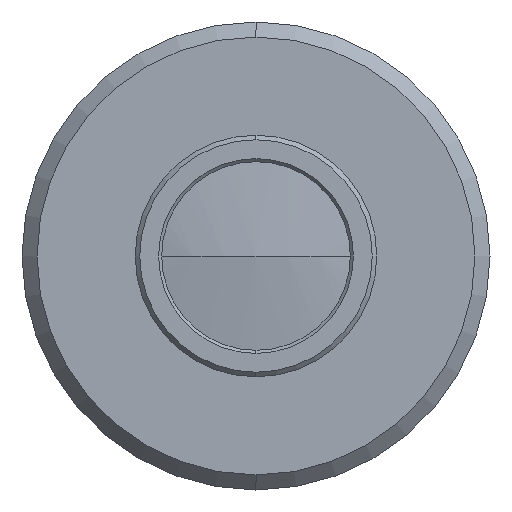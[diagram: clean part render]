
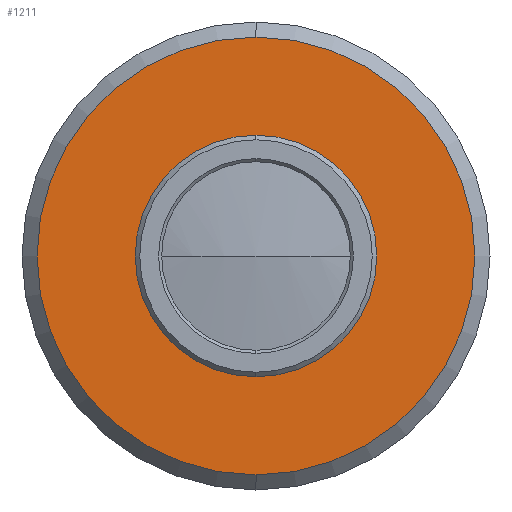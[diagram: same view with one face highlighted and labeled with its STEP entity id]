
A CAD part, left-side view. The second image highlights one B-rep face of the part: STEP entity #1211.
In plain terms, the highlighted planar face has unit normal (-1, 0, 0).
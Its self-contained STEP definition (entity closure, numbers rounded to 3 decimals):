
#11 = CIRCLE ( 'NONE', #668, 14.5 ) ;
#12 = VERTEX_POINT ( 'NONE', #212 ) ;
#77 = VERTEX_POINT ( 'NONE', #375 ) ;
#113 = CARTESIAN_POINT ( 'NONE',  ( -24.026, 0., 14.5 ) ) ;
#123 = AXIS2_PLACEMENT_3D ( 'NONE', #415, #418, #422 ) ;
#129 = CARTESIAN_POINT ( 'NONE',  ( -24.026, 0., 8. ) ) ;
#140 = ORIENTED_EDGE ( 'NONE', *, *, #414, .F. ) ;
#176 = EDGE_CURVE ( 'NONE', #77, #416, #425, .T. ) ;
#212 = CARTESIAN_POINT ( 'NONE',  ( -24.026, 0., -14.5 ) ) ;
#330 = DIRECTION ( 'NONE',  ( -1., 0., 0. ) ) ;
#375 = CARTESIAN_POINT ( 'NONE',  ( -24.026, 0., -8. ) ) ;
#414 = EDGE_CURVE ( 'NONE', #416, #77, #710, .T. ) ;
#415 = CARTESIAN_POINT ( 'NONE',  ( -24.026, 0., 0. ) ) ;
#416 = VERTEX_POINT ( 'NONE', #129 ) ;
#418 = DIRECTION ( 'NONE',  ( -1., 0., 0. ) ) ;
#422 = DIRECTION ( 'NONE',  ( 0., 0., 1. ) ) ;
#425 = CIRCLE ( 'NONE', #1213, 8. ) ;
#464 = ORIENTED_EDGE ( 'NONE', *, *, #1347, .T. ) ;
#664 = CIRCLE ( 'NONE', #123, 14.5 ) ;
#668 = AXIS2_PLACEMENT_3D ( 'NONE', #676, #678, #1104 ) ;
#676 = CARTESIAN_POINT ( 'NONE',  ( -24.026, 0., 0. ) ) ;
#678 = DIRECTION ( 'NONE',  ( -1., 0., 0. ) ) ;
#689 = CARTESIAN_POINT ( 'NONE',  ( -24.026, 0., 0. ) ) ;
#693 = DIRECTION ( 'NONE',  ( -1., 0., 0. ) ) ;
#708 = DIRECTION ( 'NONE',  ( 0., 0., 1. ) ) ;
#710 = CIRCLE ( 'NONE', #1319, 8. ) ;
#762 = CARTESIAN_POINT ( 'NONE',  ( -24.026, -46.261, 0. ) ) ;
#820 = PLANE ( 'NONE',  #1009 ) ;
#849 = FACE_BOUND ( 'NONE', #959, .T. ) ;
#879 = DIRECTION ( 'NONE',  ( 0., 0., 1. ) ) ;
#919 = DIRECTION ( 'NONE',  ( -1., 0., 0. ) ) ;
#959 = EDGE_LOOP ( 'NONE', ( #140, #1320 ) ) ;
#1008 = CARTESIAN_POINT ( 'NONE',  ( -24.026, 0., 0. ) ) ;
#1009 = AXIS2_PLACEMENT_3D ( 'NONE', #762, #330, #1355 ) ;
#1070 = EDGE_LOOP ( 'NONE', ( #464, #1279 ) ) ;
#1104 = DIRECTION ( 'NONE',  ( 0., 0., 1. ) ) ;
#1128 = FACE_OUTER_BOUND ( 'NONE', #1070, .T. ) ;
#1211 = ADVANCED_FACE ( 'NONE', ( #1128, #849 ), #820, .T. ) ;
#1213 = AXIS2_PLACEMENT_3D ( 'NONE', #689, #693, #708 ) ;
#1279 = ORIENTED_EDGE ( 'NONE', *, *, #1408, .T. ) ;
#1291 = VERTEX_POINT ( 'NONE', #113 ) ;
#1319 = AXIS2_PLACEMENT_3D ( 'NONE', #1008, #919, #879 ) ;
#1320 = ORIENTED_EDGE ( 'NONE', *, *, #176, .F. ) ;
#1347 = EDGE_CURVE ( 'NONE', #12, #1291, #664, .T. ) ;
#1355 = DIRECTION ( 'NONE',  ( 0., 0., 1. ) ) ;
#1408 = EDGE_CURVE ( 'NONE', #1291, #12, #11, .T. ) ;
